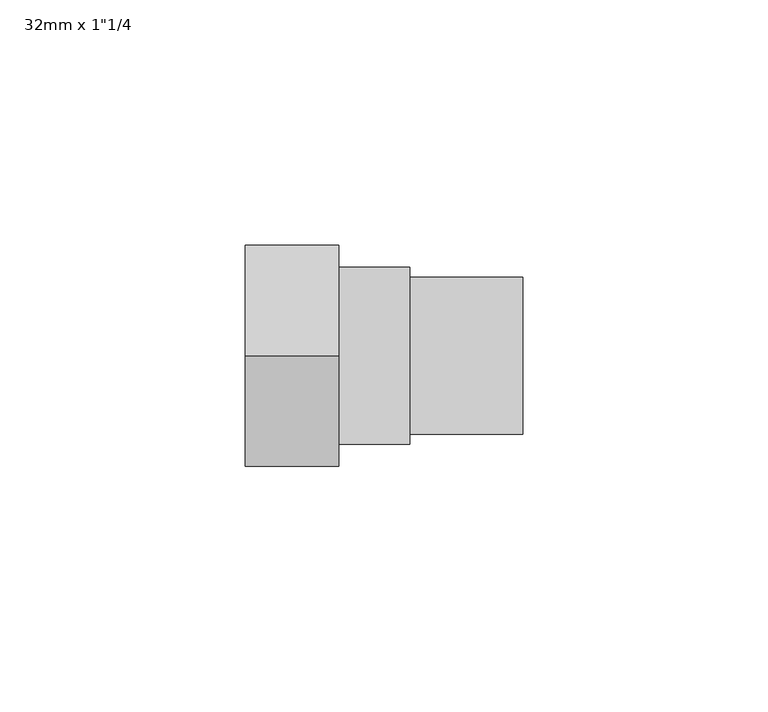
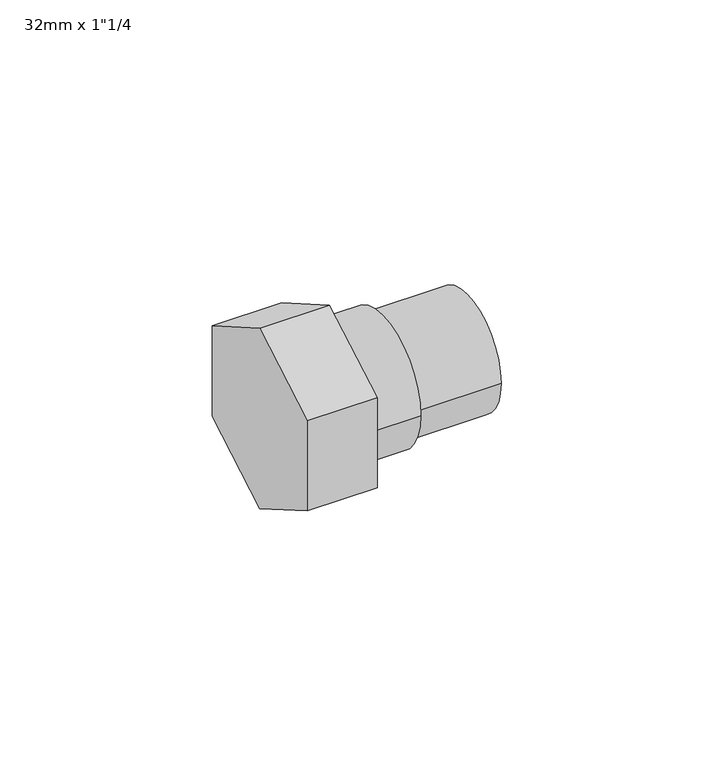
"""IFC4 building model written with IfcOpenShell, lengths in millimetres: pipe fitting geometry."""

from ifc_helpers import new_model, si_unit, point, frame, origin, origin_2d, place, context, project, spatial, polyline, circle_curve, trimmed, segment, composite_curve, outline, extrude, source, transform, mapped, element, save


def pipe_fitting_e83f6f3e(model_context):
    return source(origin(), model_context, "Body", "SweptSolid", [
        extrude(outline(composite_curve([segment(trimmed(circle_curve(origin_2d(), 18.0), [point((18.0, 0.0))], [point((-18.0, 0.0))], False, "CARTESIAN"), True, "CONTINUOUS"), segment(trimmed(circle_curve(origin_2d(), 18.0), [point((-18.0, 0.0))], [point((18.0, 0.0))], False, "CARTESIAN"), True, "CONTINUOUS")], self_intersect=False)), frame((19.0, 0.0, 0.0), z_axis=(1.0, 0.0, 0.0), x_axis=(0.0, 1.0, 0.0)), (0.0, 0.0, 1.0), 14.5),
        extrude(outline(composite_curve([segment(trimmed(circle_curve(origin_2d(), 16.0), [point((16.0, 0.0))], [point((-16.0, 0.0))], False, "CARTESIAN"), True, "CONTINUOUS"), segment(trimmed(circle_curve(origin_2d(), 16.0), [point((-16.0, 0.0))], [point((16.0, 0.0))], False, "CARTESIAN"), True, "CONTINUOUS")], self_intersect=False)), frame((33.5, 0.0, 0.0), z_axis=(1.0, 0.0, 0.0), x_axis=(0.0, 1.0, 0.0)), (0.0, 0.0, 1.0), 23.0),
        extrude(outline(polyline([(0.0, 25.9807621), (22.5, 12.9903811), (22.5, -12.9903811), (0.0, -25.9807621), (-22.5, -12.9903811), (-22.5, 12.9903811), (0.0, 25.9807621)])), frame((0.0, 0.0, 0.0), z_axis=(1.0, 0.0, 0.0), x_axis=(0.0, 1.0, 0.0)), (0.0, 0.0, 1.0), 19.0),
    ])


if __name__ == "__main__":
    model = new_model("IFC4")
    model_context = context("Model", 3, world=origin())
    ifc_project = project(units=[si_unit("LENGTHUNIT", "METRE", prefix="MILLI")], contexts=[model_context])
    site = spatial("IfcSite", under=ifc_project)
    building = spatial("IfcBuilding", under=site)
    placement = place(None, origin())
    pipe_fitting_shape = pipe_fitting_e83f6f3e(model_context)
    element("IfcPipeFitting", 1, ObjectType="PipeFitting_HTA_CPVC_TapConnectorsWithBrassNuts : 32mm x 1\"1/4", at=placement, inside=building, context=model_context, shape_type="MappedRepresentation", body=[
        mapped(pipe_fitting_shape, transform((0.0, 0.0, 0.0), x_axis=(1.0, 0.0, 0.0), y_axis=(0.0, 1.0, 0.0), z_axis=(0.0, 0.0, 1.0))),
    ])
    save(model, "model.ifc")
